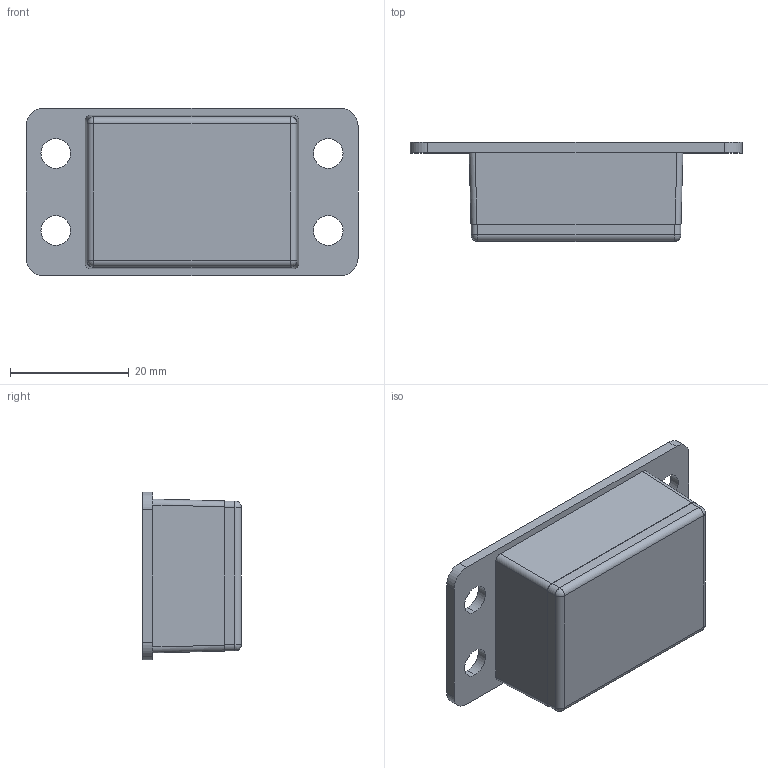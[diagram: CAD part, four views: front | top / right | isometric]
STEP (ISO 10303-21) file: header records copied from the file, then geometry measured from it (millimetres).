
FILE_DESCRIPTION (( 'STEP AP214' ), '1' );
FILE_NAME ('Tapa PP94A.STEP', '2017-10-20T07:00:51', ( 'aaa' ), ( '' ), 'SwSTEP 2.0', 'SolidWorks 2013', '' );
FILE_SCHEMA (( 'AUTOMOTIVE_DESIGN' ));
Length unit declared in the file: millimetre
Products named in the file (1): Tapa PP94A
Bounding box: 55.93 x 16.65 x 28.24 mm (x, y, z)
Volume: 6098.7 mm3; surface area: 7005.5 mm2
Topology: 1 solids, 5 shells, 92 faces, 214 edges, 136 vertices
Faces by surface type: cylinder 46, plane 42, sphere 4
Entity records: 2640 total; most frequent: CARTESIAN_POINT 511, DIRECTION 452, ORIENTED_EDGE 420, EDGE_CURVE 210, AXIS2_PLACEMENT_3D 173, VERTEX_POINT 136, EDGE_LOOP 108, VECTOR 106
